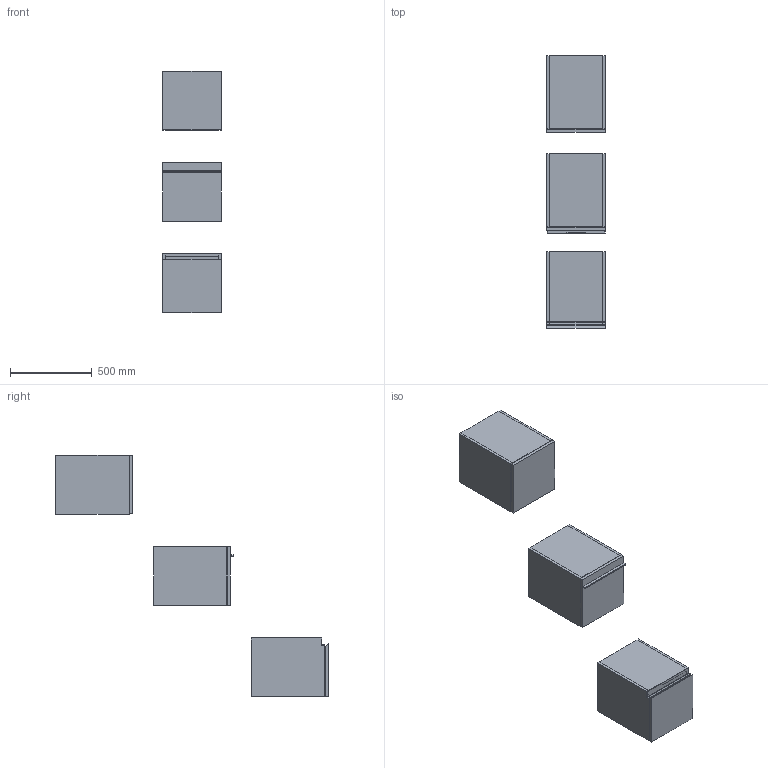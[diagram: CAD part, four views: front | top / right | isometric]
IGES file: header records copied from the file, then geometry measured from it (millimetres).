
Start section: Data from Parasolid IGES Translator 19.0.9, Copyright(c) 2006 Siemens PL M Software. All Rights Reserved.
Global section: file name: noorth-SI-H 36 D 47 W 36_8348.igs; native system: By Siemens PLM Incorporated; preprocessor: XPlus GENERIC/IGES 19.0.9; author: Noname; organization: Noname; date: 20200601.093254; units: metre
Bounding box: 360.01 x 1669.1 x 1480 mm (x, y, z)
Volume: 37581777.6 mm3; surface area: 5538599.6 mm2
Topology: 20 solids, 20 shells, 178 faces, 382 edges, 234 vertices
Faces by surface type: plane 134, extrusion 16, bspline 16, cylinder 12
